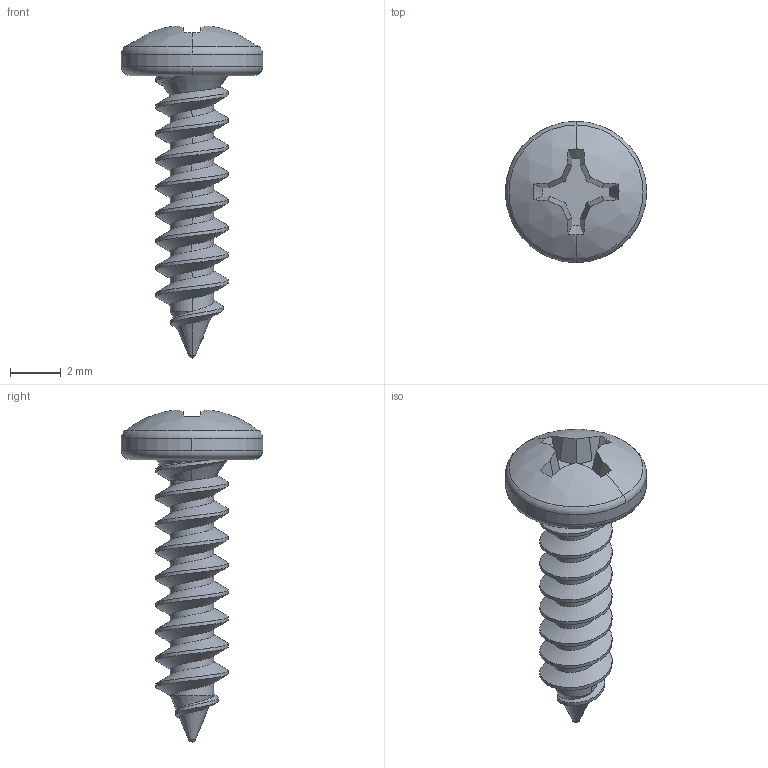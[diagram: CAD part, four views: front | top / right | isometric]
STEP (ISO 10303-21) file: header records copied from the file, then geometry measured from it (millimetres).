
FILE_DESCRIPTION (( 'STEP AP203' ), '1' );
FILE_NAME ('90190A109_Phillips Rounded Head Screws for Sheet Metal.STEP', '2021-07-30T17:06:34', ( 'Administrator' ), ( 'Managed by Terraform' ), 'SwSTEP 2.0', 'SolidWorks 2017', '' );
FILE_SCHEMA (( 'CONFIG_CONTROL_DESIGN' ));
Length unit declared in the file: inch
Products named in the file (1): 90190A109_Phillips Rounded Head Screws for Sheet Metal
Bounding box: 5.56 x 5.56 x 13.07 mm (x, y, z)
Volume: 71.9 mm3; surface area: 180.1 mm2
Topology: 1 solids, 1 shells, 63 faces, 170 edges, 110 vertices
Faces by surface type: cylinder 19, plane 18, cone 12, bspline 6, sphere 4, torus 4
Entity records: 3708 total; most frequent: CARTESIAN_POINT 2147, ORIENTED_EDGE 340, DIRECTION 284, EDGE_CURVE 170, AXIS2_PLACEMENT_3D 114, VERTEX_POINT 110, EDGE_LOOP 64, FACE_OUTER_BOUND 63
